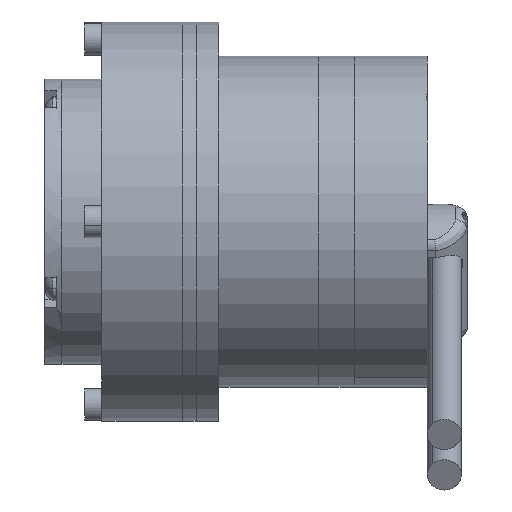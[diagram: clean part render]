
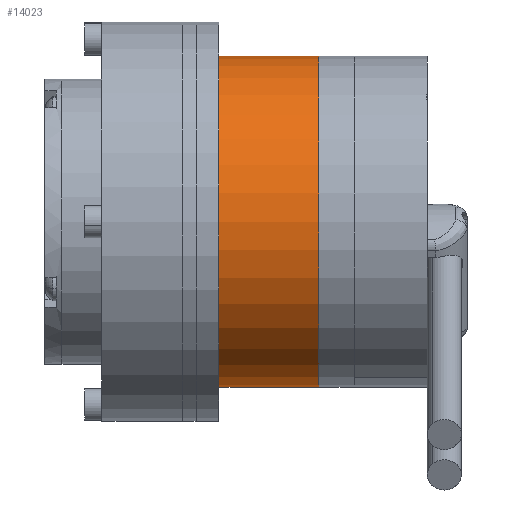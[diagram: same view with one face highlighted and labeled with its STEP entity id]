
A CAD part, left-side view. The second image highlights one B-rep face of the part: STEP entity #14023.
In plain terms, the highlighted cylindrical face has radius 29 mm (diameter 58 mm), a partial arc.
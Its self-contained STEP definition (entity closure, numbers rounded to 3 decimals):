
#1665 = EDGE_CURVE ( 'NONE', #5894, #29657, #6501, .T. ) ;
#2752 = DIRECTION ( 'NONE',  ( 0., 1., 0. ) ) ;
#3088 = CARTESIAN_POINT ( 'NONE',  ( 0., -23.9, -29. ) ) ;
#4553 = DIRECTION ( 'NONE',  ( 0., 0., -1. ) ) ;
#5894 = VERTEX_POINT ( 'NONE', #6683 ) ;
#6501 = CIRCLE ( 'NONE', #13986, 29. ) ;
#6683 = CARTESIAN_POINT ( 'NONE',  ( 0., -23.9, 29. ) ) ;
#9070 = ORIENTED_EDGE ( 'NONE', *, *, #1665, .F. ) ;
#9962 = AXIS2_PLACEMENT_3D ( 'NONE', #14937, #30648, #19856 ) ;
#10163 = VECTOR ( 'NONE', #2752, 1000. ) ;
#11147 = ORIENTED_EDGE ( 'NONE', *, *, #16109, .T. ) ;
#11561 = CARTESIAN_POINT ( 'NONE',  ( 0., -23.9, 29. ) ) ;
#11627 = CIRCLE ( 'NONE', #27290, 29. ) ;
#12465 = DIRECTION ( 'NONE',  ( 0., 0., -1. ) ) ;
#13986 = AXIS2_PLACEMENT_3D ( 'NONE', #27983, #20068, #4553 ) ;
#14023 = ADVANCED_FACE ( 'NONE', ( #15276 ), #25410, .T. ) ;
#14708 = CARTESIAN_POINT ( 'NONE',  ( 0., -6.4, 29. ) ) ;
#14937 = CARTESIAN_POINT ( 'NONE',  ( 0., -23.9, 0. ) ) ;
#14988 = CARTESIAN_POINT ( 'NONE',  ( 0., -6.4, 0. ) ) ;
#15276 = FACE_OUTER_BOUND ( 'NONE', #21480, .T. ) ;
#15756 = VERTEX_POINT ( 'NONE', #14708 ) ;
#16109 = EDGE_CURVE ( 'NONE', #15756, #29050, #11627, .T. ) ;
#17650 = EDGE_CURVE ( 'NONE', #29657, #29050, #28426, .T. ) ;
#19649 = ORIENTED_EDGE ( 'NONE', *, *, #17650, .F. ) ;
#19856 = DIRECTION ( 'NONE',  ( 0., 0., 1. ) ) ;
#20068 = DIRECTION ( 'NONE',  ( 0., -1., 0. ) ) ;
#20437 = CARTESIAN_POINT ( 'NONE',  ( 0., -6.4, -29. ) ) ;
#20913 = DIRECTION ( 'NONE',  ( 0., -1., 0. ) ) ;
#21480 = EDGE_LOOP ( 'NONE', ( #19649, #9070, #28682, #11147 ) ) ;
#23038 = EDGE_CURVE ( 'NONE', #5894, #15756, #32844, .T. ) ;
#25410 = CYLINDRICAL_SURFACE ( 'NONE', #9962, 29. ) ;
#25888 = CARTESIAN_POINT ( 'NONE',  ( 0., -23.9, -29. ) ) ;
#27290 = AXIS2_PLACEMENT_3D ( 'NONE', #14988, #20913, #12465 ) ;
#27983 = CARTESIAN_POINT ( 'NONE',  ( 0., -23.9, 0. ) ) ;
#28426 = LINE ( 'NONE', #25888, #10163 ) ;
#28682 = ORIENTED_EDGE ( 'NONE', *, *, #23038, .T. ) ;
#29050 = VERTEX_POINT ( 'NONE', #20437 ) ;
#29621 = DIRECTION ( 'NONE',  ( 0., 1., 0. ) ) ;
#29657 = VERTEX_POINT ( 'NONE', #3088 ) ;
#30648 = DIRECTION ( 'NONE',  ( 0., 1., 0. ) ) ;
#32844 = LINE ( 'NONE', #11561, #33059 ) ;
#33059 = VECTOR ( 'NONE', #29621, 1000. ) ;
